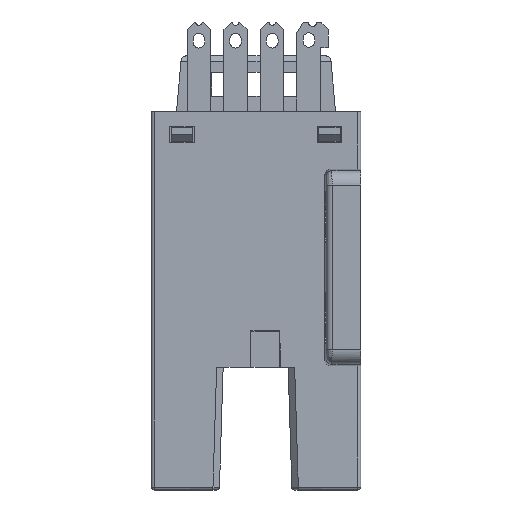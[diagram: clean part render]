
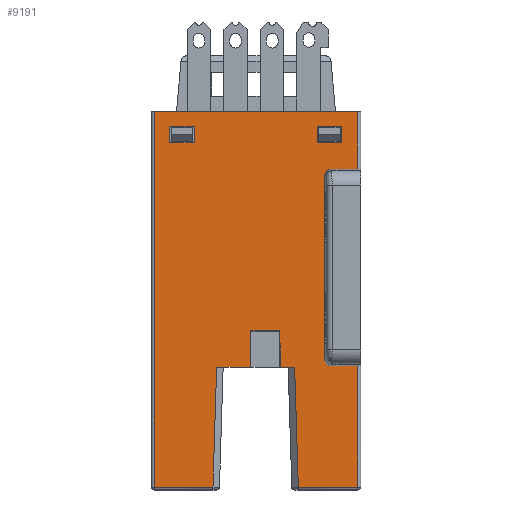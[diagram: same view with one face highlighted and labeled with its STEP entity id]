
A CAD part, front view. The second image highlights one B-rep face of the part: STEP entity #9191.
In plain terms, the highlighted planar face has unit normal (0, -1, 0).
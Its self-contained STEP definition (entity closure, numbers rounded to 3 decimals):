
#234=ELLIPSE('',#9674,0.4,0.4);
#235=ELLIPSE('',#9675,0.4,0.4);
#258=FACE_BOUND('',#820,.T.);
#259=FACE_BOUND('',#821,.T.);
#338=FACE_OUTER_BOUND('',#819,.T.);
#819=EDGE_LOOP('',(#6171,#6172,#6173,#6174,#6175,#6176,#6177,#6178,#6179,
#6180,#6181,#6182,#6183,#6184,#6185,#6186,#6187,#6188,#6189,#6190,#6191));
#820=EDGE_LOOP('',(#6192,#6193,#6194,#6195));
#821=EDGE_LOOP('',(#6196,#6197,#6198,#6199));
#1336=LINE('',#12776,#2545);
#1392=LINE('',#12886,#2601);
#1413=LINE('',#12928,#2622);
#1414=LINE('',#12930,#2623);
#1415=LINE('',#12932,#2624);
#1416=LINE('',#12934,#2625);
#1417=LINE('',#12936,#2626);
#1418=LINE('',#12938,#2627);
#1419=LINE('',#12940,#2628);
#1420=LINE('',#12942,#2629);
#1421=LINE('',#12946,#2630);
#1422=LINE('',#12950,#2631);
#1423=LINE('',#12952,#2632);
#1424=LINE('',#12954,#2633);
#1425=LINE('',#12956,#2634);
#1426=LINE('',#12958,#2635);
#1427=LINE('',#12960,#2636);
#1428=LINE('',#12962,#2637);
#1429=LINE('',#12963,#2638);
#1430=LINE('',#12966,#2639);
#1431=LINE('',#12968,#2640);
#1432=LINE('',#12970,#2641);
#1433=LINE('',#12971,#2642);
#1434=LINE('',#12974,#2643);
#1435=LINE('',#12976,#2644);
#1436=LINE('',#12978,#2645);
#1437=LINE('',#12979,#2646);
#2545=VECTOR('',#10296,10.);
#2601=VECTOR('',#10386,10.);
#2622=VECTOR('',#10421,2.52);
#2623=VECTOR('',#10422,2.007);
#2624=VECTOR('',#10423,2.52);
#2625=VECTOR('',#10424,1.);
#2626=VECTOR('',#10425,8.304);
#2627=VECTOR('',#10426,4.121);
#2628=VECTOR('',#10427,8.407);
#2629=VECTOR('',#10428,1.893);
#2630=VECTOR('',#10431,12.786);
#2631=VECTOR('',#10434,1.893);
#2632=VECTOR('',#10435,4.007);
#2633=VECTOR('',#10436,14.1);
#2634=VECTOR('',#10437,26.);
#2635=VECTOR('',#10438,4.071);
#2636=VECTOR('',#10439,8.304);
#2637=VECTOR('',#10440,2.35);
#2638=VECTOR('',#10441,2.52);
#2639=VECTOR('',#10442,1.7);
#2640=VECTOR('',#10443,1.11);
#2641=VECTOR('',#10444,1.7);
#2642=VECTOR('',#10445,1.11);
#2643=VECTOR('',#10446,1.7);
#2644=VECTOR('',#10447,1.11);
#2645=VECTOR('',#10448,1.7);
#2646=VECTOR('',#10449,1.11);
#3753=VERTEX_POINT('',#12773);
#3754=VERTEX_POINT('',#12775);
#3790=VERTEX_POINT('',#12881);
#3805=VERTEX_POINT('',#12927);
#3806=VERTEX_POINT('',#12929);
#3807=VERTEX_POINT('',#12931);
#3808=VERTEX_POINT('',#12933);
#3809=VERTEX_POINT('',#12935);
#3810=VERTEX_POINT('',#12937);
#3811=VERTEX_POINT('',#12939);
#3812=VERTEX_POINT('',#12941);
#3813=VERTEX_POINT('',#12943);
#3814=VERTEX_POINT('',#12945);
#3815=VERTEX_POINT('',#12947);
#3816=VERTEX_POINT('',#12949);
#3817=VERTEX_POINT('',#12951);
#3818=VERTEX_POINT('',#12953);
#3819=VERTEX_POINT('',#12955);
#3820=VERTEX_POINT('',#12957);
#3821=VERTEX_POINT('',#12959);
#3822=VERTEX_POINT('',#12961);
#3823=VERTEX_POINT('',#12964);
#3824=VERTEX_POINT('',#12965);
#3825=VERTEX_POINT('',#12967);
#3826=VERTEX_POINT('',#12969);
#3827=VERTEX_POINT('',#12972);
#3828=VERTEX_POINT('',#12973);
#3829=VERTEX_POINT('',#12975);
#3830=VERTEX_POINT('',#12977);
#4660=EDGE_CURVE('',#3754,#3753,#1336,.T.);
#4716=EDGE_CURVE('',#3790,#3754,#1392,.T.);
#4737=EDGE_CURVE('',#3753,#3805,#1413,.T.);
#4738=EDGE_CURVE('',#3806,#3805,#1414,.T.);
#4739=EDGE_CURVE('',#3806,#3807,#1415,.T.);
#4740=EDGE_CURVE('',#3807,#3808,#1416,.T.);
#4741=EDGE_CURVE('',#3809,#3808,#1417,.T.);
#4742=EDGE_CURVE('',#3810,#3809,#1418,.T.);
#4743=EDGE_CURVE('',#3811,#3810,#1419,.T.);
#4744=EDGE_CURVE('',#3811,#3812,#1420,.T.);
#4745=EDGE_CURVE('',#3813,#3812,#234,.T.);
#4746=EDGE_CURVE('',#3813,#3814,#1421,.T.);
#4747=EDGE_CURVE('',#3815,#3814,#235,.T.);
#4748=EDGE_CURVE('',#3816,#3815,#1422,.T.);
#4749=EDGE_CURVE('',#3817,#3816,#1423,.T.);
#4750=EDGE_CURVE('',#3818,#3817,#1424,.T.);
#4751=EDGE_CURVE('',#3819,#3818,#1425,.T.);
#4752=EDGE_CURVE('',#3820,#3819,#1426,.T.);
#4753=EDGE_CURVE('',#3821,#3820,#1427,.T.);
#4754=EDGE_CURVE('',#3821,#3822,#1428,.T.);
#4755=EDGE_CURVE('',#3822,#3790,#1429,.T.);
#4756=EDGE_CURVE('',#3823,#3824,#1430,.T.);
#4757=EDGE_CURVE('',#3825,#3823,#1431,.T.);
#4758=EDGE_CURVE('',#3826,#3825,#1432,.T.);
#4759=EDGE_CURVE('',#3824,#3826,#1433,.T.);
#4760=EDGE_CURVE('',#3827,#3828,#1434,.T.);
#4761=EDGE_CURVE('',#3829,#3827,#1435,.T.);
#4762=EDGE_CURVE('',#3830,#3829,#1436,.T.);
#4763=EDGE_CURVE('',#3828,#3830,#1437,.T.);
#6171=ORIENTED_EDGE('',*,*,#4716,.T.);
#6172=ORIENTED_EDGE('',*,*,#4660,.T.);
#6173=ORIENTED_EDGE('',*,*,#4737,.T.);
#6174=ORIENTED_EDGE('',*,*,#4738,.F.);
#6175=ORIENTED_EDGE('',*,*,#4739,.T.);
#6176=ORIENTED_EDGE('',*,*,#4740,.T.);
#6177=ORIENTED_EDGE('',*,*,#4741,.F.);
#6178=ORIENTED_EDGE('',*,*,#4742,.F.);
#6179=ORIENTED_EDGE('',*,*,#4743,.F.);
#6180=ORIENTED_EDGE('',*,*,#4744,.T.);
#6181=ORIENTED_EDGE('',*,*,#4745,.F.);
#6182=ORIENTED_EDGE('',*,*,#4746,.T.);
#6183=ORIENTED_EDGE('',*,*,#4747,.F.);
#6184=ORIENTED_EDGE('',*,*,#4748,.F.);
#6185=ORIENTED_EDGE('',*,*,#4749,.F.);
#6186=ORIENTED_EDGE('',*,*,#4750,.F.);
#6187=ORIENTED_EDGE('',*,*,#4751,.F.);
#6188=ORIENTED_EDGE('',*,*,#4752,.F.);
#6189=ORIENTED_EDGE('',*,*,#4753,.F.);
#6190=ORIENTED_EDGE('',*,*,#4754,.T.);
#6191=ORIENTED_EDGE('',*,*,#4755,.T.);
#6192=ORIENTED_EDGE('',*,*,#4756,.F.);
#6193=ORIENTED_EDGE('',*,*,#4757,.F.);
#6194=ORIENTED_EDGE('',*,*,#4758,.F.);
#6195=ORIENTED_EDGE('',*,*,#4759,.F.);
#6196=ORIENTED_EDGE('',*,*,#4760,.F.);
#6197=ORIENTED_EDGE('',*,*,#4761,.F.);
#6198=ORIENTED_EDGE('',*,*,#4762,.F.);
#6199=ORIENTED_EDGE('',*,*,#4763,.F.);
#8789=PLANE('',#9673);
#9191=ADVANCED_FACE('',(#338,#258,#259),#8789,.T.);
#9673=AXIS2_PLACEMENT_3D('',#12926,#10419,#10420);
#9674=AXIS2_PLACEMENT_3D('',#12944,#10429,#10430);
#9675=AXIS2_PLACEMENT_3D('',#12948,#10432,#10433);
#10296=DIRECTION('',(1.,0.,0.));
#10386=DIRECTION('',(0.,0.,1.));
#10419=DIRECTION('center_axis',(0.,-1.,0.));
#10420=DIRECTION('ref_axis',(-1.,0.,0.));
#10421=DIRECTION('',(0.009,0.,1.));
#10422=DIRECTION('',(-1.,0.,0.));
#10423=DIRECTION('',(0.009,0.,-1.));
#10424=DIRECTION('',(1.,0.,0.));
#10425=DIRECTION('',(-0.031,0.,1.));
#10426=DIRECTION('',(-1.,0.,0.));
#10427=DIRECTION('',(0.,0.,-1.));
#10428=DIRECTION('',(-1.,0.,0.));
#10429=DIRECTION('center_axis',(0.,-1.,0.));
#10430=DIRECTION('ref_axis',(0.707,0.,0.707));
#10431=DIRECTION('',(0.,0.,1.));
#10432=DIRECTION('center_axis',(0.,-1.,0.));
#10433=DIRECTION('ref_axis',(0.707,0.,-0.707));
#10434=DIRECTION('',(-1.,0.,0.));
#10435=DIRECTION('',(0.,0.,-1.));
#10436=DIRECTION('',(1.,0.,0.));
#10437=DIRECTION('',(0.,0.,1.));
#10438=DIRECTION('',(-1.,0.,0.));
#10439=DIRECTION('',(-0.031,0.,-1.));
#10440=DIRECTION('',(1.,0.,0.));
#10441=DIRECTION('',(0.009,0.,1.));
#10442=DIRECTION('',(1.,0.,0.));
#10443=DIRECTION('',(0.,0.,-1.));
#10444=DIRECTION('',(-1.,0.,0.));
#10445=DIRECTION('',(0.,0.,1.));
#10446=DIRECTION('',(1.,0.,0.));
#10447=DIRECTION('',(0.,0.,-1.));
#10448=DIRECTION('',(-1.,0.,0.));
#10449=DIRECTION('',(0.,0.,1.));
#12773=CARTESIAN_POINT('',(-36.703,-6.804,0.2));
#12775=CARTESIAN_POINT('',(-36.705,-6.804,0.2));
#12776=CARTESIAN_POINT('',(-36.102,-6.804,0.2));
#12881=CARTESIAN_POINT('',(-36.705,-6.804,0.063));
#12886=CARTESIAN_POINT('',(-36.705,-6.804,0.975));
#12926=CARTESIAN_POINT('Origin',(-36.5,-6.804,1.75));
#12927=CARTESIAN_POINT('',(-36.703,-6.804,0.22));
#12928=CARTESIAN_POINT('',(-36.725,-6.804,-2.3));
#12929=CARTESIAN_POINT('',(-34.697,-6.804,0.22));
#12930=CARTESIAN_POINT('',(-34.697,-6.804,0.22));
#12931=CARTESIAN_POINT('',(-34.675,-6.804,-2.3));
#12932=CARTESIAN_POINT('',(-34.697,-6.804,0.22));
#12933=CARTESIAN_POINT('',(-33.675,-6.804,-2.3));
#12934=CARTESIAN_POINT('',(-34.675,-6.804,-2.3));
#12935=CARTESIAN_POINT('',(-33.421,-6.804,-10.6));
#12936=CARTESIAN_POINT('',(-33.421,-6.804,-10.6));
#12937=CARTESIAN_POINT('',(-29.3,-6.804,-10.6));
#12938=CARTESIAN_POINT('',(-29.3,-6.804,-10.6));
#12939=CARTESIAN_POINT('',(-29.3,-6.804,-2.193));
#12940=CARTESIAN_POINT('',(-29.3,-6.804,-2.193));
#12941=CARTESIAN_POINT('',(-31.193,-6.804,-2.193));
#12942=CARTESIAN_POINT('',(-29.3,-6.804,-2.193));
#12943=CARTESIAN_POINT('',(-31.593,-6.804,-1.793));
#12944=CARTESIAN_POINT('Origin',(-31.193,-6.804,-1.793));
#12945=CARTESIAN_POINT('',(-31.593,-6.804,10.993));
#12946=CARTESIAN_POINT('',(-31.593,-6.804,-1.793));
#12947=CARTESIAN_POINT('',(-31.193,-6.804,11.393));
#12948=CARTESIAN_POINT('Origin',(-31.193,-6.804,10.993));
#12949=CARTESIAN_POINT('',(-29.3,-6.804,11.393));
#12950=CARTESIAN_POINT('',(-29.3,-6.804,11.393));
#12951=CARTESIAN_POINT('',(-29.3,-6.804,15.4));
#12952=CARTESIAN_POINT('',(-29.3,-6.804,15.4));
#12953=CARTESIAN_POINT('',(-43.4,-6.804,15.4));
#12954=CARTESIAN_POINT('',(-43.4,-6.804,15.4));
#12955=CARTESIAN_POINT('',(-43.4,-6.804,-10.6));
#12956=CARTESIAN_POINT('',(-43.4,-6.804,-10.6));
#12957=CARTESIAN_POINT('',(-39.329,-6.804,-10.6));
#12958=CARTESIAN_POINT('',(-39.329,-6.804,-10.6));
#12959=CARTESIAN_POINT('',(-39.075,-6.804,-2.3));
#12960=CARTESIAN_POINT('',(-39.075,-6.804,-2.3));
#12961=CARTESIAN_POINT('',(-36.725,-6.804,-2.3));
#12962=CARTESIAN_POINT('',(-39.075,-6.804,-2.3));
#12963=CARTESIAN_POINT('',(-36.725,-6.804,-2.3));
#12964=CARTESIAN_POINT('',(-42.326,-6.804,13.249));
#12965=CARTESIAN_POINT('',(-40.626,-6.804,13.249));
#12966=CARTESIAN_POINT('',(-42.326,-6.804,13.249));
#12967=CARTESIAN_POINT('',(-42.326,-6.804,14.359));
#12968=CARTESIAN_POINT('',(-42.326,-6.804,14.359));
#12969=CARTESIAN_POINT('',(-40.626,-6.804,14.359));
#12970=CARTESIAN_POINT('',(-40.626,-6.804,14.359));
#12971=CARTESIAN_POINT('',(-40.626,-6.804,13.249));
#12972=CARTESIAN_POINT('',(-32.126,-6.804,13.249));
#12973=CARTESIAN_POINT('',(-30.426,-6.804,13.249));
#12974=CARTESIAN_POINT('',(-32.126,-6.804,13.249));
#12975=CARTESIAN_POINT('',(-32.126,-6.804,14.359));
#12976=CARTESIAN_POINT('',(-32.126,-6.804,14.359));
#12977=CARTESIAN_POINT('',(-30.426,-6.804,14.359));
#12978=CARTESIAN_POINT('',(-30.426,-6.804,14.359));
#12979=CARTESIAN_POINT('',(-30.426,-6.804,13.249));
